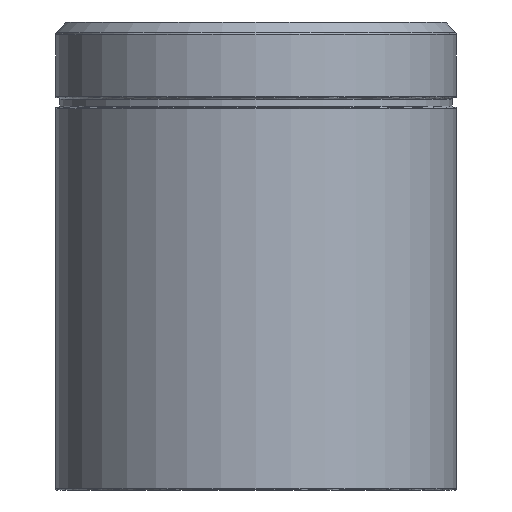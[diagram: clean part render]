
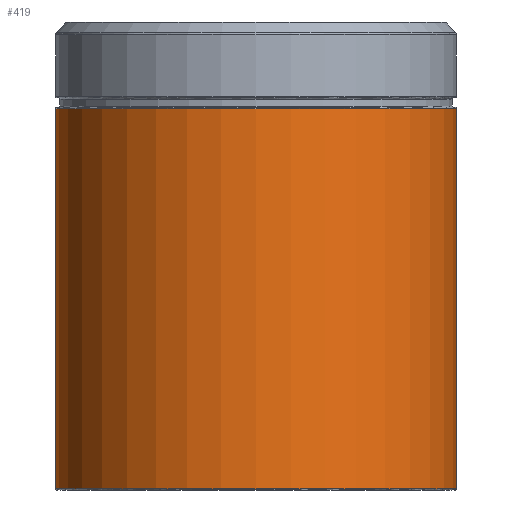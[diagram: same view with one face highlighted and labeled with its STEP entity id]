
A CAD part, front view. The second image highlights one B-rep face of the part: STEP entity #419.
In plain terms, the highlighted cylindrical face has radius 31.7 mm (diameter 63.4 mm), a partial arc.
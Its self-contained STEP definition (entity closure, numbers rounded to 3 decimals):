
#34 = CYLINDRICAL_SURFACE ( 'NONE', #3023, 31.7 ) ;
#161 = DIRECTION ( 'NONE',  ( 0., 0., -1. ) ) ;
#311 = CARTESIAN_POINT ( 'NONE',  ( 0., 0., 73.5 ) ) ;
#375 = ORIENTED_EDGE ( 'NONE', *, *, #2449, .T. ) ;
#419 = ADVANCED_FACE ( 'NONE', ( #2566 ), #34, .T. ) ;
#432 = VECTOR ( 'NONE', #469, 1000. ) ;
#469 = DIRECTION ( 'NONE',  ( 0., 0., -1. ) ) ;
#581 = LINE ( 'NONE', #3324, #432 ) ;
#730 = CARTESIAN_POINT ( 'NONE',  ( -31.7, 0., 0.2 ) ) ;
#792 = CARTESIAN_POINT ( 'NONE',  ( 31.7, 0., 60.3 ) ) ;
#859 = CARTESIAN_POINT ( 'NONE',  ( 0., 0., 0.2 ) ) ;
#860 = ORIENTED_EDGE ( 'NONE', *, *, #2699, .T. ) ;
#999 = EDGE_CURVE ( 'NONE', #1781, #1400, #1173, .T. ) ;
#1020 = DIRECTION ( 'NONE',  ( -1., 0., 0. ) ) ;
#1173 = CIRCLE ( 'NONE', #2556, 31.7 ) ;
#1250 = VERTEX_POINT ( 'NONE', #1707 ) ;
#1400 = VERTEX_POINT ( 'NONE', #1787 ) ;
#1411 = AXIS2_PLACEMENT_3D ( 'NONE', #859, #3158, #2924 ) ;
#1499 = VECTOR ( 'NONE', #2423, 1000. ) ;
#1549 = CARTESIAN_POINT ( 'NONE',  ( 31.7, 0., 73.5 ) ) ;
#1601 = ORIENTED_EDGE ( 'NONE', *, *, #3298, .F. ) ;
#1707 = CARTESIAN_POINT ( 'NONE',  ( 31.7, 0., 0.2 ) ) ;
#1781 = VERTEX_POINT ( 'NONE', #792 ) ;
#1787 = CARTESIAN_POINT ( 'NONE',  ( -31.7, 0., 60.3 ) ) ;
#1834 = EDGE_LOOP ( 'NONE', ( #1601, #2760, #860, #375 ) ) ;
#1844 = DIRECTION ( 'NONE',  ( 0., 0., -1. ) ) ;
#2220 = CARTESIAN_POINT ( 'NONE',  ( 0., 0., 60.3 ) ) ;
#2406 = DIRECTION ( 'NONE',  ( -1., 0., 0. ) ) ;
#2423 = DIRECTION ( 'NONE',  ( 0., 0., -1. ) ) ;
#2449 = EDGE_CURVE ( 'NONE', #2695, #1250, #2538, .T. ) ;
#2538 = CIRCLE ( 'NONE', #1411, 31.7 ) ;
#2556 = AXIS2_PLACEMENT_3D ( 'NONE', #2220, #161, #1020 ) ;
#2566 = FACE_OUTER_BOUND ( 'NONE', #1834, .T. ) ;
#2695 = VERTEX_POINT ( 'NONE', #730 ) ;
#2699 = EDGE_CURVE ( 'NONE', #1400, #2695, #581, .T. ) ;
#2760 = ORIENTED_EDGE ( 'NONE', *, *, #999, .T. ) ;
#2921 = LINE ( 'NONE', #1549, #1499 ) ;
#2924 = DIRECTION ( 'NONE',  ( -1., 0., 0. ) ) ;
#3023 = AXIS2_PLACEMENT_3D ( 'NONE', #311, #1844, #2406 ) ;
#3158 = DIRECTION ( 'NONE',  ( 0., 0., 1. ) ) ;
#3298 = EDGE_CURVE ( 'NONE', #1781, #1250, #2921, .T. ) ;
#3324 = CARTESIAN_POINT ( 'NONE',  ( -31.7, 0., 73.5 ) ) ;
